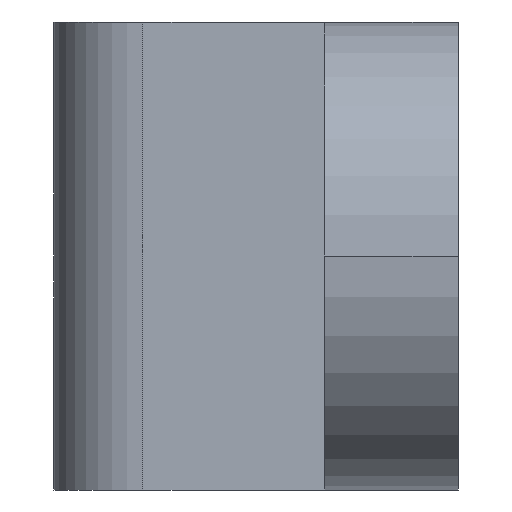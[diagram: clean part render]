
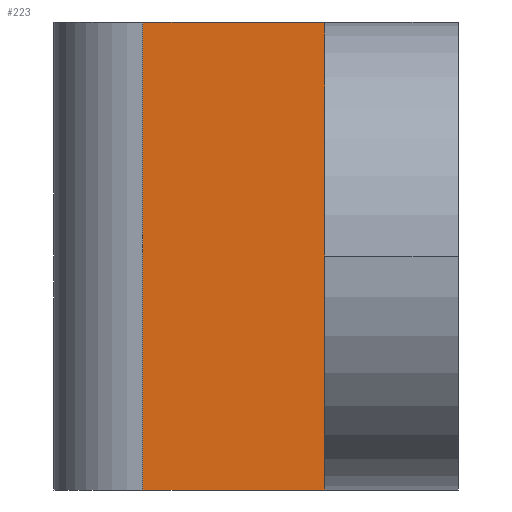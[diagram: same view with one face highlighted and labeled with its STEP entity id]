
A CAD part, left-side view. The second image highlights one B-rep face of the part: STEP entity #223.
In plain terms, the highlighted planar face has unit normal (-1, 0, 0).
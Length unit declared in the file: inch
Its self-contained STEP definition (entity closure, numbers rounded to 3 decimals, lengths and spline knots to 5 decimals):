
#11 = CARTESIAN_POINT ( 'NONE',  ( -0.46853, 0.12, -0.21 ) ) ;
#16 = FACE_OUTER_BOUND ( 'NONE', #130, .T. ) ;
#26 = CARTESIAN_POINT ( 'NONE',  ( -0.46853, 0.363, 0.21 ) ) ;
#56 = EDGE_CURVE ( 'NONE', #817, #1158, #1185, .T. ) ;
#91 = DIRECTION ( 'NONE',  ( 0., 0., -1. ) ) ;
#130 = EDGE_LOOP ( 'NONE', ( #248, #154, #892, #797 ) ) ;
#138 = CARTESIAN_POINT ( 'NONE',  ( -0.46853, 0.363, -0.21 ) ) ;
#142 = DIRECTION ( 'NONE',  ( 0., -1., 0. ) ) ;
#154 = ORIENTED_EDGE ( 'NONE', *, *, #835, .T. ) ;
#194 = EDGE_CURVE ( 'NONE', #989, #817, #1132, .T. ) ;
#218 = CARTESIAN_POINT ( 'NONE',  ( -0.46853, 0.363, 0.21 ) ) ;
#223 = ADVANCED_FACE ( 'NONE', ( #16 ), #483, .F. ) ;
#248 = ORIENTED_EDGE ( 'NONE', *, *, #194, .F. ) ;
#294 = VECTOR ( 'NONE', #568, 39.37008 ) ;
#296 = DIRECTION ( 'NONE',  ( 0., 1., 0. ) ) ;
#387 = CARTESIAN_POINT ( 'NONE',  ( -0.46853, 0.283, 0.21 ) ) ;
#390 = CARTESIAN_POINT ( 'NONE',  ( -0.46853, 0.283, -0.21 ) ) ;
#450 = VECTOR ( 'NONE', #91, 39.37008 ) ;
#483 = PLANE ( 'NONE',  #781 ) ;
#568 = DIRECTION ( 'NONE',  ( 0., -1., 0. ) ) ;
#599 = VERTEX_POINT ( 'NONE', #390 ) ;
#636 = DIRECTION ( 'NONE',  ( 0., 0., -1. ) ) ;
#639 = VECTOR ( 'NONE', #636, 39.37008 ) ;
#701 = EDGE_CURVE ( 'NONE', #599, #1158, #1160, .T. ) ;
#712 = CARTESIAN_POINT ( 'NONE',  ( -0.46853, 0.12, 0.21 ) ) ;
#723 = LINE ( 'NONE', #808, #450 ) ;
#781 = AXIS2_PLACEMENT_3D ( 'NONE', #218, #1123, #296 ) ;
#797 = ORIENTED_EDGE ( 'NONE', *, *, #56, .F. ) ;
#807 = CARTESIAN_POINT ( 'NONE',  ( -0.46853, 0.12, 0.21 ) ) ;
#808 = CARTESIAN_POINT ( 'NONE',  ( -0.46853, 0.283, 0.21 ) ) ;
#817 = VERTEX_POINT ( 'NONE', #712 ) ;
#835 = EDGE_CURVE ( 'NONE', #989, #599, #723, .T. ) ;
#892 = ORIENTED_EDGE ( 'NONE', *, *, #701, .T. ) ;
#937 = VECTOR ( 'NONE', #142, 39.37008 ) ;
#989 = VERTEX_POINT ( 'NONE', #387 ) ;
#1123 = DIRECTION ( 'NONE',  ( 1., 0., 0. ) ) ;
#1132 = LINE ( 'NONE', #26, #294 ) ;
#1158 = VERTEX_POINT ( 'NONE', #11 ) ;
#1160 = LINE ( 'NONE', #138, #937 ) ;
#1185 = LINE ( 'NONE', #807, #639 ) ;
